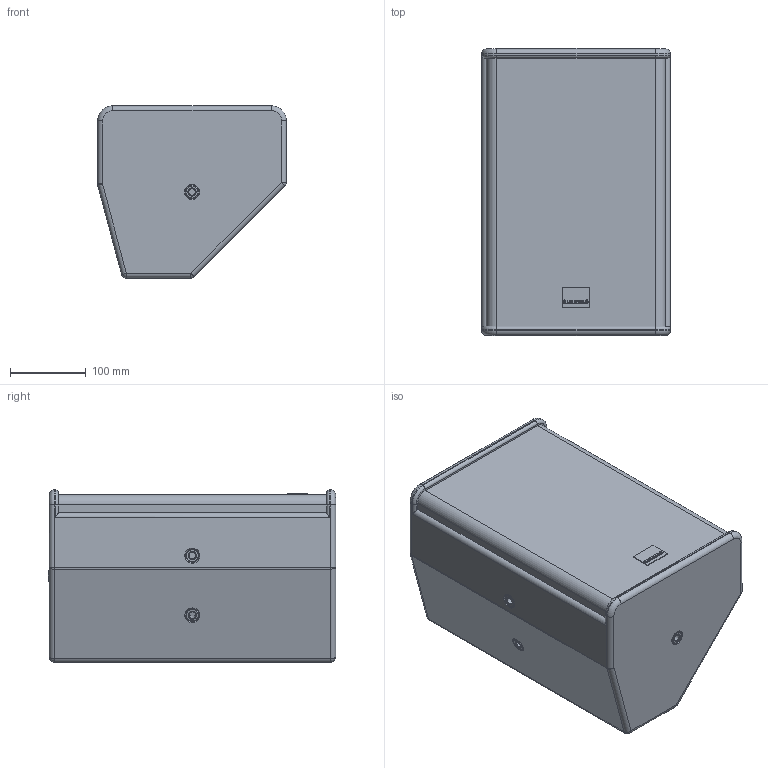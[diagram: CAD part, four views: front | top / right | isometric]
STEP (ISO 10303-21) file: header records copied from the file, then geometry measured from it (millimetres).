
FILE_DESCRIPTION (( 'STEP AP203' ), '1' );
FILE_NAME ('Seeburg_SRX-810.STEP', '2012-10-15T12:51:17', ( 'Fabian' ), ( '' ), 'SwSTEP 2.0', 'SolidWorks 2009', '' );
FILE_SCHEMA (( 'CONFIG_CONTROL_DESIGN' ));
Length unit declared in the file: millimetre
Products named in the file (2): SRX810; Seeburg_SRX-810
Assembly tree (1 placements, depth 2):
  Seeburg_SRX-810
    SRX810
Bounding box: 250 x 380 x 228 mm (x, y, z)
Volume: 6262855.1 mm3; surface area: 920537.8 mm2
Topology: 17 solids, 17 shells, 372 faces, 885 edges, 559 vertices
Faces by surface type: cylinder 160, plane 133, cone 60, sphere 11, torus 8
Entity records: 11219 total; most frequent: CARTESIAN_POINT 2114, DIRECTION 2015, ORIENTED_EDGE 1762, EDGE_CURVE 881, AXIS2_PLACEMENT_3D 770, VERTEX_POINT 557, VECTOR 475, LINE 475
